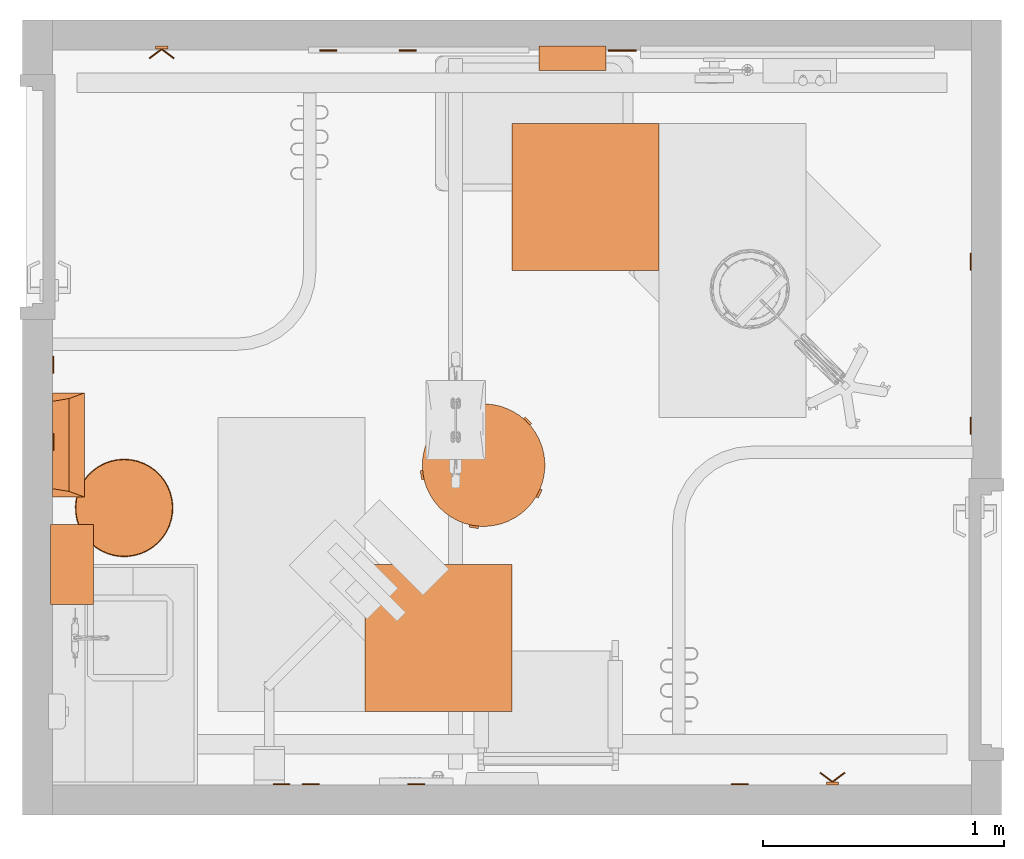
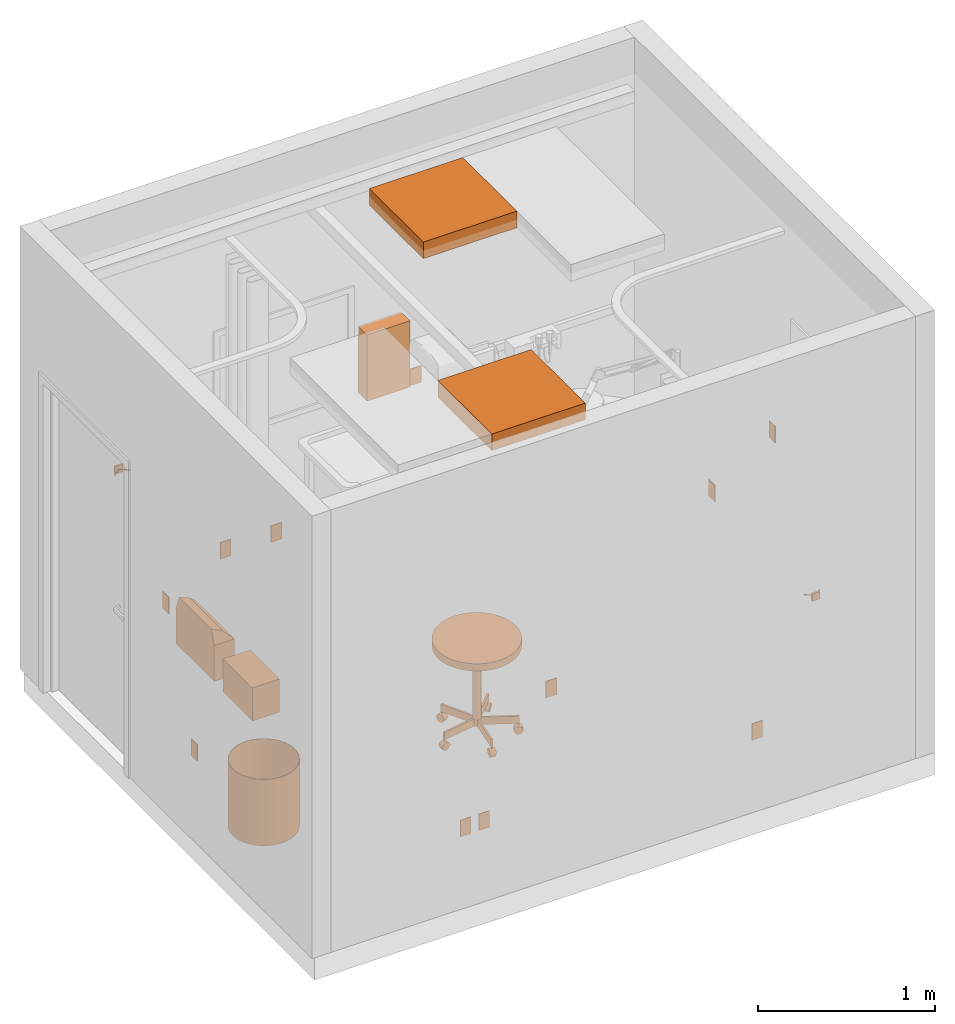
# One storey, part 7 of 8: 20 proxies.
"""IFC2X3 building model written with IfcOpenShell, lengths in feet."""

from ifc_helpers import new_model, entity, si_unit, converted_unit, derived_unit, direction, frame, frame_2d, origin, origin_2d_with_axis, place, context, subcontext, project, spatial, polyline, circle_curve, parameter, trimmed, segment, composite_curve, rectangle, circle, hollow_circle, outline, extrude, faceted_brep, source, transform, mapped, type_object, type_shapes, element, save


model = new_model("IFC2X3")

# Units and contexts
model_context = context("Model", 3, precision=0.0001, world=origin(), true_north=direction((6.12303176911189e-17, 1.0)))
body_context = subcontext(model_context, "Body", "Model", "MODEL_VIEW")
ifc_project = project(units=[converted_unit("LENGTHUNIT", "FOOT", entity("IfcRatioMeasure", 0.3048), si_unit("LENGTHUNIT", "METRE"), dimensions=[1, 0, 0, 0, 0, 0, 0]), converted_unit("AREAUNIT", "SQUARE FOOT", entity("IfcRatioMeasure", 0.09290304), si_unit("AREAUNIT", "SQUARE_METRE"), dimensions=[2, 0, 0, 0, 0, 0, 0]), converted_unit("VOLUMEUNIT", "CUBIC FOOT", entity("IfcRatioMeasure", 0.028316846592), si_unit("VOLUMEUNIT", "CUBIC_METRE"), dimensions=[3, 0, 0, 0, 0, 0, 0]), converted_unit("PLANEANGLEUNIT", "DEGREE", entity("IfcRatioMeasure", 0.0174532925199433), si_unit("PLANEANGLEUNIT", "RADIAN"), dimensions=[0, 0, 0, 0, 0, 0, 0]), si_unit("MASSUNIT", "GRAM", prefix="KILO"), derived_unit("MASSDENSITYUNIT", [(si_unit("MASSUNIT", "GRAM", prefix="KILO"), 1), (si_unit("LENGTHUNIT", "METRE"), -3)]), si_unit("TIMEUNIT", "SECOND"), si_unit("FREQUENCYUNIT", "HERTZ"), si_unit("THERMODYNAMICTEMPERATUREUNIT", "DEGREE_CELSIUS"), derived_unit("THERMALTRANSMITTANCEUNIT", [(si_unit("MASSUNIT", "GRAM", prefix="KILO"), 1), (si_unit("THERMODYNAMICTEMPERATUREUNIT", "KELVIN"), -1), (si_unit("TIMEUNIT", "SECOND"), -3)]), derived_unit("VOLUMETRICFLOWRATEUNIT", [(si_unit("LENGTHUNIT", "METRE"), 3), (si_unit("TIMEUNIT", "SECOND"), -1)]), si_unit("ELECTRICCURRENTUNIT", "AMPERE"), si_unit("ELECTRICVOLTAGEUNIT", "VOLT"), si_unit("POWERUNIT", "WATT"), si_unit("FORCEUNIT", "NEWTON"), si_unit("ILLUMINANCEUNIT", "LUX"), si_unit("LUMINOUSFLUXUNIT", "LUMEN"), si_unit("LUMINOUSINTENSITYUNIT", "CANDELA"), derived_unit("USERDEFINED", [(si_unit("MASSUNIT", "GRAM", prefix="KILO"), -1), (si_unit("LENGTHUNIT", "METRE"), -2), (si_unit("TIMEUNIT", "SECOND"), 3), (si_unit("LUMINOUSFLUXUNIT", "LUMEN"), 1)]), derived_unit("LINEARVELOCITYUNIT", [(si_unit("LENGTHUNIT", "METRE"), 1), (si_unit("TIMEUNIT", "SECOND"), -1)]), si_unit("PRESSUREUNIT", "PASCAL"), derived_unit("USERDEFINED", [(si_unit("LENGTHUNIT", "METRE"), -2), (si_unit("MASSUNIT", "GRAM", prefix="KILO"), 1), (si_unit("TIMEUNIT", "SECOND"), -2)])], contexts=[model_context])

# Site, building, storey, space
site_placement = place(None, origin())
site = spatial("IfcSite", under=ifc_project, at=site_placement, Name="Default", CompositionType="ELEMENT")
building_placement = place(site_placement, origin())
building = spatial("IfcBuilding", under=site, at=building_placement, Name="OUTPATIENT / PACT CLINIC (Ch. 265)", CompositionType="ELEMENT")
storey_placement = place(building_placement, origin())
storey = spatial("IfcBuildingStorey", under=building, at=storey_placement, Name="DATUM", CompositionType="ELEMENT", Elevation=0.0)
space_placement = place(storey_placement, origin())
space = spatial("IfcSpace", under=storey, at=space_placement, Name="EXPA1", CompositionType="ELEMENT", InteriorOrExteriorSpace="INTERNAL")

# Proxies
building_element_proxy_type_1 = type_object("IfcBuildingElementProxyType", Name="A5080 - Dispenser, Paper Towel", PredefinedType="NOTDEFINED")
shared_shape_1 = source(origin(), body_context, "Body", "SweptSolid", [
    extrude(rectangle(XDim=0.58333333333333, YDim=1.08333333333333, at=frame_2d((9.99200722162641e-16, 0.0), x_axis=(1.0, 0.0))), frame((0.0, -0.291666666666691, 0.0), z_axis=(0.0, 0.0, 1.0), x_axis=(0.0, 1.0, 0.0)), (0.0, 0.0, 1.0), 0.75),
])
type_shapes(building_element_proxy_type_1, [shared_shape_1])
proxy_1_placement = place(space_placement, frame((-207.611971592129, -857.876806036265, 3.5), z_axis=(0.0, 0.0, 1.0), x_axis=(0.0, 1.0, 0.0)))
element("IfcBuildingElementProxy", 1, at=proxy_1_placement, inside=space, type_object=building_element_proxy_type_1, Name="A5080 - Dispenser, Paper Towel:A5080 - Dispenser, Paper Towel", ObjectType="A5080 - Dispenser, Paper Towel", context=body_context, shape_type="MappedRepresentation", body=[
    mapped(shared_shape_1, transform((0.0, 0.0, 0.0), scale=1.0)),
])
building_element_proxy_type_2 = type_object("IfcBuildingElementProxyType", Name="F0340 - Stool, Self Adjusting", PredefinedType="NOTDEFINED")
shared_shape_2 = source(origin(), body_context, "Body", "SweptSolid", [
    extrude(circle(Radius=0.084518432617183, at=frame_2d((0.0, -1.38777878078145e-16), x_axis=(1.0, 0.0))), frame((0.717011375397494, 0.287734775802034, 0.0845184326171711), z_axis=(0.309016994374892, -0.951056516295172, 0.0), x_axis=(-0.951056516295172, -0.309016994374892, 0.0)), (0.0, 0.0, 1.0), 0.104166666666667),
    extrude(outline(composite_curve([segment(polyline([(-0.0925649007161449, 0.0), (0.0925649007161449, 0.0)]), True, "CONTINUOUS"), segment(trimmed(circle_curve(origin_2d_with_axis(), 0.0925649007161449), [parameter(2.03555499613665e-13)], [parameter(180.0)], True, "PARAMETER"), True, "CONTINUOUS")], self_intersect=False)), frame((0.752419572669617, 0.178759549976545, 0.0845184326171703), z_axis=(-0.309016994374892, 0.951056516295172, 0.0), x_axis=(-0.951056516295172, -0.309016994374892, 0.0)), (0.0, 0.0, 1.0), 0.125),
    extrude(circle(Radius=0.0115130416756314, at=frame_2d((7.9106571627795e-18, 1.14165428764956e-16), x_axis=(1.0, 0.0))), frame((0.73310678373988, 0.238198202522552, 0.177083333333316), z_axis=(0.0, 0.0, 1.0), x_axis=(0.309016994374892, -0.951056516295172, 0.0)), (0.0, 0.0, 1.0), 0.0442708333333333),
    extrude(rectangle(XDim=0.0416641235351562, YDim=0.7059128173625, at=frame_2d((1.38777878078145e-17, 0.0), x_axis=(1.0, 0.0))), frame((0.412570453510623, 0.134049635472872, 0.221354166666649), z_axis=(0.0, 0.0, 1.0), x_axis=(-0.309016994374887, 0.951056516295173, 0.0)), (0.0, 0.0, 1.0), 0.166666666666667),
    extrude(circle(Radius=0.084518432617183, at=frame_2d((0.0, -3.7470027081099e-16), x_axis=(1.0, 0.0))), frame((0.410948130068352, -0.654231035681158, 0.0845184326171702), z_axis=(0.809016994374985, 0.587785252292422, 0.0), x_axis=(-0.587785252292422, 0.809016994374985, 0.0)), (0.0, 0.0, 1.0), 0.104166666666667),
    extrude(outline(composite_curve([segment(polyline([(-0.0925649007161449, 0.0), (0.0925649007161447, 0.0)]), True, "CONTINUOUS"), segment(trimmed(circle_curve(origin_2d_with_axis(), 0.0925649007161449), [parameter(2.03555499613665e-13)], [parameter(180.0)], True, "PARAMETER"), True, "CONTINUOUS")], self_intersect=False)), frame((0.402520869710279, -0.660353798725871, 0.0845184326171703), z_axis=(0.809016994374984, 0.587785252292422, 0.0), x_axis=(-0.587785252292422, 0.809016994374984, 0.0)), (0.0, 0.0, 1.0), 0.125),
    extrude(circle(Radius=0.0115130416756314, at=origin_2d_with_axis()), frame((0.453082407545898, -0.623618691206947, 0.177083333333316), z_axis=(0.0, 0.0, 1.0), x_axis=(-0.809016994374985, -0.587785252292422, 0.0)), (0.0, 0.0, 1.0), 0.0442708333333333),
    extrude(rectangle(XDim=0.0416641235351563, YDim=0.705912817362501, at=frame_2d((0.0, -1.38777878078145e-16), x_axis=(1.0, 0.0))), frame((0.254980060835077, -0.350954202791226, 0.221354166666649), z_axis=(0.0, 0.0, 1.0), x_axis=(0.809016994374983, 0.587785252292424, 0.0)), (0.0, 0.0, 1.0), 0.166666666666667),
    extrude(circle(Radius=0.084518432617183, at=frame_2d((-3.2628636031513e-17, -1.38777878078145e-16), x_axis=(1.0, 0.0))), frame((-0.410948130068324, -0.654231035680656, 0.0845184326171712), z_axis=(-0.809016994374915, 0.587785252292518, 0.0), x_axis=(0.587785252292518, 0.809016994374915, 0.0)), (0.0, 0.0, 1.0), 0.104166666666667),
    extrude(outline(composite_curve([segment(trimmed(circle_curve(origin_2d_with_axis(), 0.0925649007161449), [parameter(180.0)], [parameter(360.0)], True, "PARAMETER"), True, "CONTINUOUS"), segment(polyline([(0.0925649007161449, 0.0), (-0.0925649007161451, 0.0)]), True, "CONTINUOUS")], self_intersect=False)), frame((-0.402520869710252, -0.66035379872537, 0.0845184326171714), z_axis=(-0.809016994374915, 0.587785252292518, 0.0), x_axis=(0.587785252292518, 0.809016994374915, 0.0)), (0.0, 0.0, 1.0), 0.125),
    extrude(circle(Radius=0.0115130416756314, at=frame_2d((-4.49094647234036e-17, -3.2628636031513e-17), x_axis=(1.0, 0.0))), frame((-0.453086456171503, -0.623615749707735, 0.177083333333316), z_axis=(0.0, 0.0, 1.0), x_axis=(-0.809016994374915, 0.587785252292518, 0.0)), (0.0, 0.0, 1.0), 0.0442708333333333),
    extrude(rectangle(XDim=0.0416641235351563, YDim=0.7059128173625, at=frame_2d((-4.16333634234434e-17, 5.55111512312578e-17), x_axis=(1.0, 0.0))), frame((-0.254984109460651, -0.350951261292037, 0.221354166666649), z_axis=(0.0, 0.0, 1.0), x_axis=(0.809016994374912, -0.587785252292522, 0.0)), (0.0, 0.0, 1.0), 0.166666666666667),
    extrude(circle(Radius=0.084518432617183, at=frame_2d((0.0, -1.38777878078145e-16), x_axis=(1.0, 0.0))), frame((-0.749200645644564, 0.188666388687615, 0.0845184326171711), z_axis=(0.309016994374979, 0.951056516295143, 0.0), x_axis=(0.951056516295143, -0.309016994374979, 0.0)), (0.0, 0.0, 1.0), 0.104166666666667),
    extrude(outline(composite_curve([segment(trimmed(circle_curve(origin_2d_with_axis(), 0.0925649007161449), [parameter(180.0)], [parameter(360.0)], True, "PARAMETER"), True, "CONTINUOUS"), segment(polyline([(0.0925649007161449, 0.0), (-0.0925649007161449, 0.0)]), True, "CONTINUOUS")], self_intersect=False)), frame((-0.752419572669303, 0.178759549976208, 0.0845184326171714), z_axis=(0.309016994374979, 0.951056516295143, 0.0), x_axis=(0.951056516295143, -0.309016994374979, 0.0)), (0.0, 0.0, 1.0), 0.125),
    extrude(circle(Radius=0.0115130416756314, at=frame_2d((7.91065716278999e-18, -1.14165428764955e-16), x_axis=(1.0, 0.0))), frame((-0.733105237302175, 0.238202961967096, 0.177083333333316), z_axis=(0.0, 0.0, 1.0), x_axis=(0.309016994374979, 0.951056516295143, 0.0)), (0.0, 0.0, 1.0), 0.0442708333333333),
    extrude(rectangle(XDim=0.0416641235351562, YDim=0.7059128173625, at=origin_2d_with_axis()), frame((-0.412568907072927, 0.134054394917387, 0.221354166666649), z_axis=(0.0, 0.0, 1.0), x_axis=(-0.309016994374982, -0.951056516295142, 0.0)), (0.0, 0.0, 1.0), 0.166666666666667),
    extrude(circle(Radius=0.084518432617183, at=frame_2d((-1.76415182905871e-31, -1.38777878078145e-16), x_axis=(1.0, 0.0))), frame((-0.0520833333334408, 0.770833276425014, 0.0845184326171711), z_axis=(1.0, 0.0, 0.0), x_axis=(0.0, -1.0, 0.0)), (0.0, 0.0, 1.0), 0.104166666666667),
    extrude(outline(composite_curve([segment(trimmed(circle_curve(origin_2d_with_axis(), 0.0925649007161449), [parameter(180.0)], [parameter(360.0)], True, "PARAMETER"), True, "CONTINUOUS"), segment(polyline([(0.0925649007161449, 0.0), (-0.0925649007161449, 0.0)]), True, "CONTINUOUS")], self_intersect=False)), frame((-0.0625000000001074, 0.770833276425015, 0.0845184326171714), z_axis=(1.0, 0.0, 0.0), x_axis=(0.0, -1.0, 0.0)), (0.0, 0.0, 1.0), 0.125),
    extrude(circle(Radius=0.0115130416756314, at=frame_2d((7.04731412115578e-19, 1.79171670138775e-32), x_axis=(1.0, 0.0))), frame((2.50218814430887e-06, 0.770833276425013, 0.177083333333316)), (0.0, 0.0, 1.0), 0.0442708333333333),
    extrude(rectangle(XDim=0.0416641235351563, YDim=0.7059128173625, at=frame_2d((3.46944695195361e-18, 5.55111512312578e-17), x_axis=(1.0, 0.0))), frame((2.50218813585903e-06, 0.433801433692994, 0.221354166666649), z_axis=(0.0, 0.0, 1.0), x_axis=(-1.0, 0.0, 0.0)), (0.0, 0.0, 1.0), 0.166666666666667),
    extrude(circle(Radius=0.0834863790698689, at=frame_2d((2.89333175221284e-18, -1.34875966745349e-16), x_axis=(1.0, 0.0))), frame((0.0, 0.0, 0.221354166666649)), (0.0, 0.0, 1.0), 1.77864583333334),
    extrude(circle(Radius=0.833333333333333, at=frame_2d((2.28760446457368e-17, -1.34628714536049e-15), x_axis=(1.0, 0.0))), frame((0.0, 0.0, 2.0)), (0.0, 0.0, 1.0), 0.166666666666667),
])
type_shapes(building_element_proxy_type_2, [shared_shape_2])
proxy_2_placement = place(space_placement, frame((-201.721715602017, -856.526133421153, 0.0), z_axis=(0.0, 0.0, 1.0), x_axis=(0.707106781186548, -0.707106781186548, 0.0)))
element("IfcBuildingElementProxy", 2, at=proxy_2_placement, inside=space, type_object=building_element_proxy_type_2, Name="F0340 - Stool, Self Adjusting:F0340 - Stool, Self Adjusting", ObjectType="F0340 - Stool, Self Adjusting", context=body_context, shape_type="MappedRepresentation", body=[
    mapped(shared_shape_2, transform((0.0, 0.0, 0.0), scale=1.0)),
])
building_element_proxy_type_3 = type_object("IfcBuildingElementProxyType", Name="F2000 - Basket, Wastepaper", PredefinedType="NOTDEFINED")
shared_shape_3 = source(origin(), body_context, "Body", "SweptSolid", [
    extrude(circle(Radius=0.666666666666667, at=frame_2d((0.0, -1.07702971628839e-15), x_axis=(1.0, 0.0))), origin(), (0.0, 0.0, 1.0), 0.0104166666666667),
    extrude(hollow_circle(Radius=0.666666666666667, WallThickness=0.0104166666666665, at=frame_2d((0.0, -1.07702971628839e-15), x_axis=(1.0, 0.0))), frame((0.0, 0.0, 0.0104166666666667)), (0.0, 0.0, 1.0), 1.48958333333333),
])
type_shapes(building_element_proxy_type_3, [shared_shape_3])
proxy_3_placement = place(space_placement, frame((-206.611971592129, -857.107803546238, 0.0), z_axis=(0.0, 0.0, 1.0), x_axis=(0.0, 1.0, 0.0)))
element("IfcBuildingElementProxy", 3, at=proxy_3_placement, inside=space, type_object=building_element_proxy_type_3, Name="F2000 - Basket, Wastepaper:F2000 - Basket, Wastepaper", ObjectType="F2000 - Basket, Wastepaper", context=body_context, shape_type="MappedRepresentation", body=[
    mapped(shared_shape_3, transform((0.0, 0.0, 0.0), scale=1.0)),
])
building_element_proxy_type_4 = type_object("IfcBuildingElementProxyType", Name="A5145 - Hook, Garment, Double", PredefinedType="NOTDEFINED")
shared_shape_4 = source(origin(), body_context, "Body", "SweptSolid", [
    extrude(circle(Radius=0.0105952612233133, at=frame_2d((-1.64551454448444e-31, -4.16333634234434e-17), x_axis=(1.0, 0.0))), frame((-0.169086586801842, -0.168481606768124, 0.0833333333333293), z_axis=(0.799999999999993, 0.60000000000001, 0.0), x_axis=(0.60000000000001, -0.799999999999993, 0.0)), (0.0, 0.0, 1.0), 0.211358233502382),
    extrude(circle(Radius=0.0105952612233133, at=frame_2d((5.2041704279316e-19, 2.77555756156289e-17), x_axis=(1.0, 0.0))), frame((0.0, -0.0416666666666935, 0.083333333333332), z_axis=(0.799999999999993, -0.60000000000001, 0.0), x_axis=(-0.60000000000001, -0.799999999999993, 0.0)), (0.0, 0.0, 1.0), 0.211358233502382),
    extrude(rectangle(XDim=0.0416666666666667, YDim=0.166666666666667, at=origin_2d_with_axis()), frame((0.0, -0.0208333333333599, 0.0), z_axis=(0.0, 0.0, 1.0), x_axis=(0.0, 1.0, 0.0)), (0.0, 0.0, 1.0), 0.166666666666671),
])
type_shapes(building_element_proxy_type_4, [shared_shape_4])
proxy_4_placement = place(space_placement, frame((-206.101554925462, -850.824722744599, 4.0)))
element("IfcBuildingElementProxy", 4, at=proxy_4_placement, inside=space, type_object=building_element_proxy_type_4, Name="A5145 - Hook, Garment, Double:A5145 - Hook, Garment, Double", ObjectType="A5145 - Hook, Garment, Double", context=body_context, shape_type="MappedRepresentation", body=[
    mapped(shared_shape_4, transform((0.0, 0.0, 0.0), scale=1.0)),
])
proxy_5_placement = place(space_placement, frame((-196.976554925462, -860.876806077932, 4.0), z_axis=(0.0, 0.0, 1.0), x_axis=(-1.0, 0.0, 0.0)))
element("IfcBuildingElementProxy", 5, at=proxy_5_placement, inside=space, type_object=building_element_proxy_type_4, Name="A5145 - Hook, Garment, Double:A5145 - Hook, Garment, Double", ObjectType="A5145 - Hook, Garment, Double", context=body_context, shape_type="MappedRepresentation", body=[
    mapped(shared_shape_4, transform((0.0, 0.0, 0.0), scale=1.0)),
])
building_element_proxy_type_5 = type_object("IfcBuildingElementProxyType", Name="24\" x 24\"", PredefinedType="NOTDEFINED")
shared_shape_5 = source(origin(), body_context, "Body", "SweptSolid", [
    extrude(rectangle(XDim=2.00000000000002, YDim=2.00000000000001, at=origin_2d_with_axis()), frame((0.0, 0.0, 8.0), z_axis=(0.0, 0.0, 1.0), x_axis=(0.0, 1.0, 0.0)), (0.0, 0.0, 1.0), 0.375),
])
type_shapes(building_element_proxy_type_5, [shared_shape_5])
proxy_6_placement = place(space_placement, frame((-202.335929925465, -858.876806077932, 1.0)))
element("IfcBuildingElementProxy", 6, at=proxy_6_placement, inside=space, type_object=building_element_proxy_type_5, Name="Supply Diffuser:24\" x 24\"", ObjectType="24\" x 24\"", context=body_context, shape_type="MappedRepresentation", body=[
    mapped(shared_shape_5, transform((0.0, 0.0, 0.0), scale=1.0)),
])
building_element_proxy_type_6 = type_object("IfcBuildingElementProxyType", Name="24\" x 24\"", PredefinedType="NOTDEFINED")
shared_shape_6 = source(origin(), body_context, "Body", "SweptSolid", [
    extrude(rectangle(XDim=2.0, YDim=2.0, at=origin_2d_with_axis()), frame((0.0, 0.0, 8.0)), (0.0, 0.0, 1.0), 0.375),
])
type_shapes(building_element_proxy_type_6, [shared_shape_6])
proxy_7_placement = place(space_placement, frame((-200.335929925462, -852.876806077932, 1.0)))
element("IfcBuildingElementProxy", 7, at=proxy_7_placement, inside=space, type_object=building_element_proxy_type_6, Name="Return Register:24\" x 24\"", ObjectType="24\" x 24\"", context=body_context, shape_type="MappedRepresentation", body=[
    mapped(shared_shape_6, transform((0.0, 0.0, 0.0), scale=1.0)),
])
building_element_proxy_type_7 = type_object("IfcBuildingElementProxyType", Name="A5107 - Dispenser, Glove, Surgical-Examination, Wall Mntd 10\"x 4\"", PredefinedType="NOTDEFINED")
shared_shape_7 = source(origin(), body_context, "Body", "SweptSolid", [
    extrude(rectangle(XDim=0.333333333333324, YDim=0.916666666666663, at=frame_2d((-1.38777878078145e-17, 0.0), x_axis=(1.0, 0.0))), frame((0.0, 0.166666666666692, 0.0), z_axis=(0.0, 0.0, 1.0), x_axis=(0.0, 1.0, 0.0)), (0.0, 0.0, 1.0), 1.5),
])
type_shapes(building_element_proxy_type_7, [shared_shape_7])
proxy_8_placement = place(space_placement, frame((-200.513013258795, -850.824722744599, 4.0), z_axis=(0.0, 0.0, 1.0), x_axis=(-1.0, 0.0, 0.0)))
element("IfcBuildingElementProxy", 8, at=proxy_8_placement, inside=space, type_object=building_element_proxy_type_7, Name="A5107 - Dispenser, Glove, Surgical-Examination, Wall Mntd:A5107 - Dispenser, Glove, Surgical-Examination, Wall Mntd 10\"x 4\"", ObjectType="A5107 - Dispenser, Glove, Surgical-Examination, Wall Mntd 10\"x 4\"", context=body_context, shape_type="MappedRepresentation", body=[
    mapped(shared_shape_7, transform((0.0, 0.0, 0.0), scale=1.0)),
])
building_element_proxy_type_8 = type_object("IfcBuildingElementProxyType", Name="A5108 - Waste Disposal Unit, Sharps 17\"x 13\"", PredefinedType="NOTDEFINED")
shared_shape_8 = source(origin(), body_context, "Body", "Brep", [
    faceted_brep([(0.70833333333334, 0.0, 0.0), (-0.708333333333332, 0.0, 0.0), (-0.708333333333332, 0.437500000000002, 0.0), (0.70833333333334, 0.437500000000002, 0.0), (0.70833333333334, 0.437500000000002, 0.810989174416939), (0.70833333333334, 0.0025667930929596, 0.810989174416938), (0.70833333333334, 0.0, 0.808422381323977), (-0.708333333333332, 0.437500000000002, 0.810989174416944), (-0.594042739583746, 0.437500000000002, 1.125), (0.594042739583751, 0.437500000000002, 1.125), (-0.708333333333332, 0.0, 0.808422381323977), (-0.708333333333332, 0.00256679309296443, 0.810989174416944), (0.632497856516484, 0.210923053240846, 1.01934543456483), (-0.632497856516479, 0.210923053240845, 1.01934543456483)], [[[0, 1, 2, 3]], [[0, 3, 4, 5, 6]], [[3, 2, 7, 8, 9, 4]], [[2, 1, 10, 11, 7]], [[1, 0, 6, 10]], [[10, 6, 5, 12, 13, 11]], [[12, 9, 8, 13]], [[5, 4, 9, 12]], [[8, 7, 11, 13]]]),
])
type_shapes(building_element_proxy_type_8, [shared_shape_8])
proxy_9_placement = place(storey_placement, frame((-207.148429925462, -856.251806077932, 3.5), z_axis=(0.0, 0.0, 1.0), x_axis=(0.0, 1.0, 0.0)))
element("IfcBuildingElementProxy", 9, at=proxy_9_placement, inside=storey, type_object=building_element_proxy_type_8, Name="A5108 - Waste Disposal Unit, Sharps:A5108 - Waste Disposal Unit, Sharps 17\"x 13\"", ObjectType="A5108 - Waste Disposal Unit, Sharps 17\"x 13\"", context=body_context, shape_type="MappedRepresentation", body=[
    mapped(shared_shape_8, transform((0.0, 0.0, 0.0), scale=1.0)),
])
building_element_proxy_type_9 = type_object("IfcBuildingElementProxyType", Name="Dimmer", PredefinedType="NOTDEFINED")
shared_shape_9 = source(origin(), body_context, "Body", "SweptSolid", [
    extrude(rectangle(XDim=0.0156249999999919, YDim=0.229166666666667, at=origin_2d_with_axis()), frame((0.0, 0.210937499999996, 0.0), z_axis=(0.0, 0.0, 1.0), x_axis=(0.0, 1.0, 0.0)), (0.0, 0.0, 1.0), 0.37500000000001),
])
type_shapes(building_element_proxy_type_9, [shared_shape_9])
for number, where, z_axis, x_axis, name in (
    (10, (-207.789054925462, -855.158056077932, 4.0), (0.0, 0.0, 1.0), (0.0, -1.0, 0.0), "Switch, Dimmer:Dimmer"),
    (11, (-194.882804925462, -855.991389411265, 4.0), (0.0, 0.0, 1.0), (0.0, 1.0, 0.0), "Switch, Dimmer:Dimmer"),
):
    element("IfcBuildingElementProxy", number, at=place(space_placement, frame(where, z_axis=z_axis, x_axis=x_axis)), inside=space, type_object=building_element_proxy_type_9, Name=name, ObjectType="Dimmer", context=body_context, shape_type="MappedRepresentation", body=[
        mapped(shared_shape_9, transform((0.0, 0.0, 0.0), scale=1.0)),
    ])
building_element_proxy_type_10 = type_object("IfcBuildingElementProxyType", Name="Telephone/Data", PredefinedType="NOTDEFINED")
shared_shape_10 = source(origin(), body_context, "Body", "SweptSolid", [
    extrude(rectangle(XDim=0.0156249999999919, YDim=0.229166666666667, at=origin_2d_with_axis()), frame((0.0, 0.210937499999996, 0.0), z_axis=(0.0, 0.0, 1.0), x_axis=(0.0, 1.0, 0.0)), (0.0, 0.0, 1.0), 0.375),
])
type_shapes(building_element_proxy_type_10, [shared_shape_10])
proxy_10_placement = place(space_placement, frame((-204.471346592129, -861.079931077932, 1.31249999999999)))
element("IfcBuildingElementProxy", 12, at=proxy_10_placement, inside=space, type_object=building_element_proxy_type_10, Name="Outlet, Communications:Telephone/Data", ObjectType="Telephone/Data", context=body_context, shape_type="MappedRepresentation", body=[
    mapped(shared_shape_10, transform((0.0, 0.0, 0.0), scale=1.0)),
])
proxy_11_placement = place(space_placement, frame((-203.835929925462, -850.673681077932, 1.3125), z_axis=(0.0, 0.0, 1.0), x_axis=(-1.0, 0.0, 0.0)))
element("IfcBuildingElementProxy", 13, at=proxy_11_placement, inside=space, type_object=building_element_proxy_type_10, Name="Outlet, Communications:Telephone/Data", ObjectType="Telephone/Data", context=body_context, shape_type="MappedRepresentation", body=[
    mapped(shared_shape_10, transform((0.0, 0.0, 0.0), scale=1.0)),
])
building_element_proxy_type_11 = type_object("IfcBuildingElementProxyType", Name="Duplex", PredefinedType="NOTDEFINED")
shared_shape_11 = source(origin(), body_context, "Body", "SweptSolid", [
    extrude(rectangle(XDim=0.0156249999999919, YDim=0.229166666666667, at=origin_2d_with_axis()), frame((0.0, 0.210937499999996, 0.0), z_axis=(0.0, 0.0, 1.0), x_axis=(0.0, 1.0, 0.0)), (0.0, 0.0, 1.0), 0.37500000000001),
])
type_shapes(building_element_proxy_type_11, [shared_shape_11])
for number, where, z_axis, x_axis, name in (
    (14, (-202.752596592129, -850.673681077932, 1.3125), (0.0, 0.0, 1.0), (-1.0, 0.0, 0.0), "Outlet, Duplex, Wall:Duplex"),
    (15, (-194.882804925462, -853.757014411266, 1.3125), (0.0, 0.0, 1.0), (0.0, 1.0, 0.0), "Outlet, Duplex, Wall:Duplex"),
):
    element("IfcBuildingElementProxy", number, at=place(space_placement, frame(where, z_axis=z_axis, x_axis=x_axis)), inside=space, type_object=building_element_proxy_type_11, Name=name, ObjectType="Duplex", context=body_context, shape_type="MappedRepresentation", body=[
        mapped(shared_shape_11, transform((0.0, 0.0, 0.0), scale=1.0)),
    ])
proxy_12_placement = place(space_placement, frame((-198.236971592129, -861.079931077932, 1.31250000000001)))
element("IfcBuildingElementProxy", 16, at=proxy_12_placement, inside=space, type_object=building_element_proxy_type_11, Name="Outlet, Duplex, Wall:Duplex", ObjectType="Duplex", context=body_context, shape_type="MappedRepresentation", body=[
    mapped(shared_shape_11, transform((0.0, 0.0, 0.0), scale=1.0)),
])
proxy_13_placement = place(space_placement, frame((-207.789054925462, -856.210139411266, 1.3125), z_axis=(0.0, 0.0, 1.0), x_axis=(0.0, -1.0, 0.0)))
element("IfcBuildingElementProxy", 17, at=proxy_13_placement, inside=space, type_object=building_element_proxy_type_11, Name="Outlet, Duplex, Wall:Duplex", ObjectType="Duplex", context=body_context, shape_type="MappedRepresentation", body=[
    mapped(shared_shape_11, transform((0.0, 0.0, 0.0), scale=1.0)),
])
proxy_14_placement = place(space_placement, frame((-204.075513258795, -861.079931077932, 1.3125)))
element("IfcBuildingElementProxy", 18, at=proxy_14_placement, inside=space, type_object=building_element_proxy_type_11, Name="Outlet, Duplex, Wall:Duplex", ObjectType="Duplex", context=body_context, shape_type="MappedRepresentation", body=[
    mapped(shared_shape_11, transform((0.0, 0.0, 0.0), scale=1.0)),
])
building_element_proxy_type_12 = type_object("IfcBuildingElementProxyType", Name="Quadraplex", PredefinedType="NOTDEFINED")
shared_shape_12 = source(origin(), body_context, "Body", "SweptSolid", [
    extrude(rectangle(XDim=0.375, YDim=0.0156249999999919, at=frame_2d((-5.55111512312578e-17, 0.0), x_axis=(1.0, 0.0))), frame((0.0, -0.210937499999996, 0.0), z_axis=(0.0, 0.0, 1.0), x_axis=(-1.0, 0.0, 0.0)), (0.0, 0.0, 1.0), 0.375000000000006),
])
type_shapes(building_element_proxy_type_12, [shared_shape_12])
proxy_15_placement = place(space_placement, frame((-199.835929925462, -850.673681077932, 3.81249999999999)))
element("IfcBuildingElementProxy", 19, at=proxy_15_placement, inside=space, type_object=building_element_proxy_type_12, Name="Outlet, Quadraplex, Wall:Quadraplex", ObjectType="Quadraplex", context=body_context, shape_type="MappedRepresentation", body=[
    mapped(shared_shape_12, transform((0.0, 0.0, 0.0), scale=1.0)),
])
building_element_proxy_type_13 = type_object("IfcBuildingElementProxyType", Name="Telephone/Data", PredefinedType="NOTDEFINED")
shared_shape_13 = source(origin(), body_context, "Body", "SweptSolid", [
    extrude(rectangle(XDim=0.0156249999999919, YDim=0.229166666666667, at=origin_2d_with_axis()), frame((0.0, 0.210937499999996, 0.0), z_axis=(0.0, 0.0, 1.0), x_axis=(0.0, 1.0, 0.0)), (0.0, 0.0, 1.0), 0.375),
])
type_shapes(building_element_proxy_type_13, [shared_shape_13])
proxy_16_placement = place(space_placement, frame((-202.638013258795, -861.079931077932, 3.8125)))
element("IfcBuildingElementProxy", 20, at=proxy_16_placement, inside=space, type_object=building_element_proxy_type_13, Name="Outlet, Communications:Telephone/Data", ObjectType="Telephone/Data", context=body_context, shape_type="MappedRepresentation", body=[
    mapped(shared_shape_13, transform((0.0, 0.0, 0.0), scale=1.0)),
])

save(model, "model.ifc")
